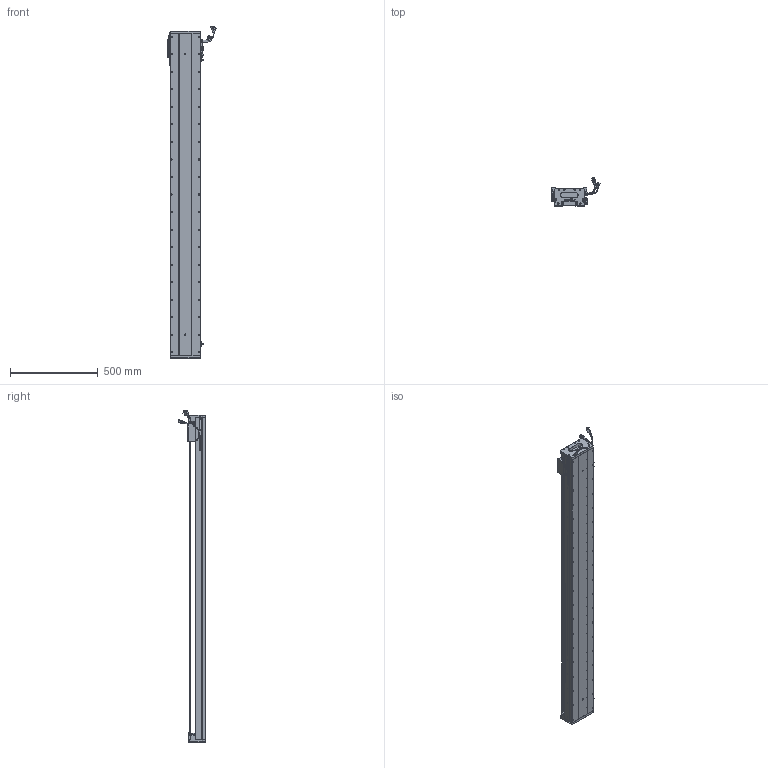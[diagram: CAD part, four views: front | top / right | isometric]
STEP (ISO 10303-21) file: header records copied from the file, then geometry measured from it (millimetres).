
FILE_DESCRIPTION (( 'STEP AP203' ), '1' );
FILE_NAME ('Z1-RY170D-1-L500-B-K.SLDASM_1650.step', '2021-05-17T08:53:34', ( '盈信电脑' ), ( '东莞市道滘镇水果街19号' ), 'SwSTEP 2.0', 'SolidWorks 2016', '' );
FILE_SCHEMA (( 'CONFIG_CONTROL_DESIGN' ));
Length unit declared in the file: millimetre
Products named in the file (36): SCREW-M1.6-2; SEAL-Part-1; LABEL; Z1-RY170臏賑輸(21遴); Z1-RY170D-1-L500-B-K.SLDASM_1650; LABEL-Part-1; SCALE; HOLDER0; 170-Z-臏賑輸盄裔(21遴); RY170直线电机感应器672光电感应片; Z-RY170詩湍奻揤裔; HARNESS; 榋妏寠巭燃_暯_M2_2; HARNESS-Part-1; SCREW-M1.7-1; 覜茼ん672; SCALE-Part-2; SEAL; PSLH080_PSLF2; SCREW-M1.7; Z-170詩湍傷裔啣; Z1-RY170-L500耀郪菁釱_1650; HARNESS-Part-2; 080黍杅芛假蚾釱21遴; SHIELDPLATE; COVER-Part-1; PBU_SHEET; COVER; Z1-RY170-L500詩湍145mm遵_1650; Z-RY170詩湍狟揤裔; 140蚥薯蝶輸; SCREW-M1.6-3; 140雄赽晤鎢ん堤盄; SCREW-M1.6; SCREW-M1.6-1; SCALE-Part-1
Assembly tree (41 placements, depth 4):
  Z1-RY170D-1-L500-B-K.SLDASM_1650
    Z1-RY170-L500耀郪菁釱_1650
    RY170直线电机感应器672光电感应片
    Z1-RY170臏賑輸(21遴)
    覜茼ん672  x3
    PSLH080_PSLF2
      SCALE
        SCALE-Part-1
        SCALE-Part-2
      HARNESS
        HARNESS-Part-1
        HARNESS-Part-2
      LABEL
        LABEL-Part-1
      COVER
        COVER-Part-1
      SEAL
        SEAL-Part-1
      榋妏寠巭燃_暯_M2_2
      SHIELDPLATE
      SCREW-M1.7
      SCREW-M1.7-1
      PBU_SHEET
      SCREW-M1.6
      SCREW-M1.6-1
      SCREW-M1.6-2
      SCREW-M1.6-3
      HOLDER0
    080黍杅芛假蚾釱21遴
    Z1-RY170-L500詩湍145mm遵_1650
    Z-170詩湍傷裔啣  x2
    Z-RY170詩湍奻揤裔  x2
    Z-RY170詩湍狟揤裔  x2
    140蚥薯蝶輸  x2
    170-Z-臏賑輸盄裔(21遴)
    140雄赽晤鎢ん堤盄
Bounding box: 275.33 x 158.11 x 1893.72 mm (x, y, z)
Volume: 9347459.1 mm3; surface area: 2334016.5 mm2
Topology: 36 solids, 36 shells, 3504 faces, 9611 edges, 6027 vertices
Faces by surface type: cylinder 1698, plane 1228, cone 456, torus 69, bspline 53
Entity records: 107643 total; most frequent: CARTESIAN_POINT 29424, ORIENTED_EDGE 15882, DIRECTION 14997, EDGE_CURVE 7941, AXIS2_PLACEMENT_3D 5490, VERTEX_POINT 5145, VECTOR 4017, LINE 4017
